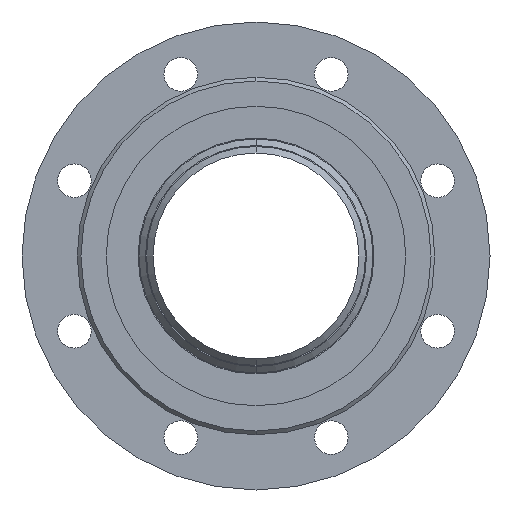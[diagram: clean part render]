
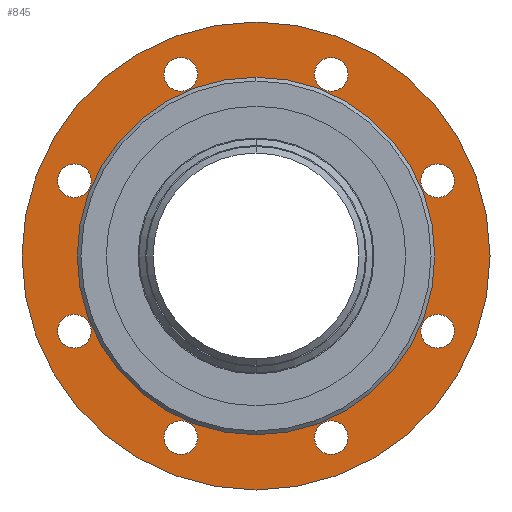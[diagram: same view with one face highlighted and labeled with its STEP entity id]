
A CAD part, left-side view. The second image highlights one B-rep face of the part: STEP entity #845.
In plain terms, the highlighted planar face has unit normal (-1, 0, 0).
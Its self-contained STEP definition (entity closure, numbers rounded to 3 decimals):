
#845=ADVANCED_FACE('',(#1570,#1571,#1572,#1573,#1574,#1575,#1576,#1577,#1578,#1579),#1580,.F.);
#1570=FACE_BOUND('',#2356,.T.);
#1571=FACE_BOUND('',#2357,.T.);
#1572=FACE_BOUND('',#2358,.T.);
#1573=FACE_BOUND('',#2359,.T.);
#1574=FACE_BOUND('',#2360,.T.);
#1575=FACE_BOUND('',#2361,.T.);
#1576=FACE_BOUND('',#2362,.T.);
#1577=FACE_BOUND('',#2363,.T.);
#1578=FACE_BOUND('',#2364,.T.);
#1579=FACE_OUTER_BOUND('',#2365,.T.);
#1580=PLANE('',#2366);
#2356=EDGE_LOOP('',(#3874,#3875));
#2357=EDGE_LOOP('',(#3876,#3877));
#2358=EDGE_LOOP('',(#3878,#3879));
#2359=EDGE_LOOP('',(#3880,#3881));
#2360=EDGE_LOOP('',(#3882,#3883));
#2361=EDGE_LOOP('',(#3884,#3885));
#2362=EDGE_LOOP('',(#3886,#3887));
#2363=EDGE_LOOP('',(#3888,#3889));
#2364=EDGE_LOOP('',(#3890,#3891));
#2365=EDGE_LOOP('',(#3892,#3893));
#2366=AXIS2_PLACEMENT_3D('',#3894,#3895,#3896);
#3874=ORIENTED_EDGE('',*,*,#4578,.T.);
#3875=ORIENTED_EDGE('',*,*,#4759,.T.);
#3876=ORIENTED_EDGE('',*,*,#4443,.T.);
#3877=ORIENTED_EDGE('',*,*,#4760,.T.);
#3878=ORIENTED_EDGE('',*,*,#4340,.T.);
#3879=ORIENTED_EDGE('',*,*,#4304,.T.);
#3880=ORIENTED_EDGE('',*,*,#4410,.T.);
#3881=ORIENTED_EDGE('',*,*,#4761,.T.);
#3882=ORIENTED_EDGE('',*,*,#4656,.T.);
#3883=ORIENTED_EDGE('',*,*,#4457,.T.);
#3884=ORIENTED_EDGE('',*,*,#4337,.T.);
#3885=ORIENTED_EDGE('',*,*,#4363,.T.);
#3886=ORIENTED_EDGE('',*,*,#4385,.T.);
#3887=ORIENTED_EDGE('',*,*,#4488,.T.);
#3888=ORIENTED_EDGE('',*,*,#4762,.T.);
#3889=ORIENTED_EDGE('',*,*,#4588,.T.);
#3890=ORIENTED_EDGE('',*,*,#4272,.T.);
#3891=ORIENTED_EDGE('',*,*,#4749,.T.);
#3892=ORIENTED_EDGE('',*,*,#4673,.F.);
#3893=ORIENTED_EDGE('',*,*,#4494,.F.);
#3894=CARTESIAN_POINT('',(5.0,0.0,0.));
#3895=DIRECTION('',(1.0,0.0,0.));
#3896=DIRECTION('',(0.,0.0,-1.0));
#4272=EDGE_CURVE('',#5014,#5018,#5020,.T.);
#4304=EDGE_CURVE('',#5074,#5072,#5075,.T.);
#4337=EDGE_CURVE('',#5123,#5127,#5129,.T.);
#4340=EDGE_CURVE('',#5072,#5074,#5132,.T.);
#4363=EDGE_CURVE('',#5127,#5123,#5171,.T.);
#4385=EDGE_CURVE('',#5200,#5204,#5206,.T.);
#4410=EDGE_CURVE('',#5241,#5245,#5247,.T.);
#4443=EDGE_CURVE('',#5295,#5299,#5301,.T.);
#4457=EDGE_CURVE('',#5323,#5321,#5324,.T.);
#4488=EDGE_CURVE('',#5204,#5200,#5366,.T.);
#4494=EDGE_CURVE('',#5374,#5369,#5376,.T.);
#4578=EDGE_CURVE('',#5487,#5485,#5488,.T.);
#4588=EDGE_CURVE('',#5504,#5502,#5505,.T.);
#4656=EDGE_CURVE('',#5321,#5323,#5589,.T.);
#4673=EDGE_CURVE('',#5369,#5374,#5609,.T.);
#4749=EDGE_CURVE('',#5018,#5014,#5694,.T.);
#4759=EDGE_CURVE('',#5485,#5487,#5704,.T.);
#4760=EDGE_CURVE('',#5299,#5295,#5705,.T.);
#4761=EDGE_CURVE('',#5245,#5241,#5706,.T.);
#4762=EDGE_CURVE('',#5502,#5504,#5707,.T.);
#5014=VERTEX_POINT('',#6008);
#5018=VERTEX_POINT('',#6013);
#5020=CIRCLE('',#6016,9.0);
#5072=VERTEX_POINT('',#6089);
#5074=VERTEX_POINT('',#6092);
#5075=CIRCLE('',#6093,9.0);
#5123=VERTEX_POINT('',#6153);
#5127=VERTEX_POINT('',#6158);
#5129=CIRCLE('',#6161,9.0);
#5132=CIRCLE('',#6164,9.0);
#5171=CIRCLE('',#6212,9.0);
#5200=VERTEX_POINT('',#6250);
#5204=VERTEX_POINT('',#6255);
#5206=CIRCLE('',#6258,9.0);
#5241=VERTEX_POINT('',#6305);
#5245=VERTEX_POINT('',#6310);
#5247=CIRCLE('',#6313,9.0);
#5295=VERTEX_POINT('',#6372);
#5299=VERTEX_POINT('',#6377);
#5301=CIRCLE('',#6380,9.0);
#5321=VERTEX_POINT('',#6406);
#5323=VERTEX_POINT('',#6409);
#5324=CIRCLE('',#6410,9.0);
#5366=CIRCLE('',#6461,9.0);
#5369=VERTEX_POINT('',#6464);
#5374=VERTEX_POINT('',#6470);
#5376=CIRCLE('',#6473,125.0);
#5485=VERTEX_POINT('',#6605);
#5487=VERTEX_POINT('',#6608);
#5488=CIRCLE('',#6609,62.5);
#5502=VERTEX_POINT('',#6625);
#5504=VERTEX_POINT('',#6628);
#5505=CIRCLE('',#6629,9.0);
#5589=CIRCLE('',#6735,9.0);
#5609=CIRCLE('',#6757,125.0);
#5694=CIRCLE('',#6864,9.0);
#5704=CIRCLE('',#6876,62.5);
#5705=CIRCLE('',#6877,9.0);
#5706=CIRCLE('',#6878,9.0);
#5707=CIRCLE('',#6879,9.0);
#6008=CARTESIAN_POINT('',(5.0,-40.182,-106.007));
#6013=CARTESIAN_POINT('',(5.,-40.182,-88.007));
#6016=AXIS2_PLACEMENT_3D('',#7113,#7114,#7115);
#6089=CARTESIAN_POINT('',(5.0,40.182,-106.007));
#6092=CARTESIAN_POINT('',(5.,40.182,-88.007));
#6093=AXIS2_PLACEMENT_3D('',#7144,#7145,#7146);
#6153=CARTESIAN_POINT('',(5.0,97.007,31.182));
#6158=CARTESIAN_POINT('',(5.0,97.007,49.182));
#6161=AXIS2_PLACEMENT_3D('',#7194,#7195,#7196);
#6164=AXIS2_PLACEMENT_3D('',#7200,#7201,#7202);
#6212=AXIS2_PLACEMENT_3D('',#7236,#7237,#7238);
#6250=CARTESIAN_POINT('',(5.0,40.182,88.007));
#6255=CARTESIAN_POINT('',(5.,40.182,106.007));
#6258=AXIS2_PLACEMENT_3D('',#7265,#7266,#7267);
#6305=CARTESIAN_POINT('',(5.0,-97.007,31.182));
#6310=CARTESIAN_POINT('',(5.0,-97.007,49.182));
#6313=AXIS2_PLACEMENT_3D('',#7294,#7295,#7296);
#6372=CARTESIAN_POINT('',(5.0,97.007,-49.182));
#6377=CARTESIAN_POINT('',(5.0,97.007,-31.182));
#6380=AXIS2_PLACEMENT_3D('',#7346,#7347,#7348);
#6406=CARTESIAN_POINT('',(5.0,-40.182,88.007));
#6409=CARTESIAN_POINT('',(5.,-40.182,106.007));
#6410=AXIS2_PLACEMENT_3D('',#7362,#7363,#7364);
#6461=AXIS2_PLACEMENT_3D('',#7410,#7411,#7412);
#6464=CARTESIAN_POINT('',(5.,0.0,-125.0));
#6470=CARTESIAN_POINT('',(5.,0.,125.0));
#6473=AXIS2_PLACEMENT_3D('',#7421,#7422,#7423);
#6605=CARTESIAN_POINT('',(5.0,0.,-62.5));
#6608=CARTESIAN_POINT('',(5.0,0.,62.5));
#6609=AXIS2_PLACEMENT_3D('',#7538,#7539,#7540);
#6625=CARTESIAN_POINT('',(5.0,-97.007,-49.182));
#6628=CARTESIAN_POINT('',(5.0,-97.007,-31.182));
#6629=AXIS2_PLACEMENT_3D('',#7556,#7557,#7558);
#6735=AXIS2_PLACEMENT_3D('',#7644,#7645,#7646);
#6757=AXIS2_PLACEMENT_3D('',#7667,#7668,#7669);
#6864=AXIS2_PLACEMENT_3D('',#7737,#7738,#7739);
#6876=AXIS2_PLACEMENT_3D('',#7742,#7743,#7744);
#6877=AXIS2_PLACEMENT_3D('',#7745,#7746,#7747);
#6878=AXIS2_PLACEMENT_3D('',#7748,#7749,#7750);
#6879=AXIS2_PLACEMENT_3D('',#7751,#7752,#7753);
#7113=CARTESIAN_POINT('',(5.,-40.182,-97.007));
#7114=DIRECTION('',(1.0,0.0,0.));
#7115=DIRECTION('',(0.,0.0,-1.0));
#7144=CARTESIAN_POINT('',(5.,40.182,-97.007));
#7145=DIRECTION('',(1.0,0.0,0.));
#7146=DIRECTION('',(0.,0.0,-1.0));
#7194=CARTESIAN_POINT('',(5.0,97.007,40.182));
#7195=DIRECTION('',(1.0,0.0,0.));
#7196=DIRECTION('',(0.,0.0,-1.0));
#7200=CARTESIAN_POINT('',(5.,40.182,-97.007));
#7201=DIRECTION('',(1.0,0.0,0.));
#7202=DIRECTION('',(0.,0.0,-1.0));
#7236=CARTESIAN_POINT('',(5.0,97.007,40.182));
#7237=DIRECTION('',(1.0,0.0,0.));
#7238=DIRECTION('',(0.,0.0,-1.0));
#7265=CARTESIAN_POINT('',(5.,40.182,97.007));
#7266=DIRECTION('',(1.0,0.0,0.));
#7267=DIRECTION('',(0.,0.0,-1.0));
#7294=CARTESIAN_POINT('',(5.0,-97.007,40.182));
#7295=DIRECTION('',(1.0,0.0,0.));
#7296=DIRECTION('',(0.,0.0,-1.0));
#7346=CARTESIAN_POINT('',(5.0,97.007,-40.182));
#7347=DIRECTION('',(1.0,0.0,0.));
#7348=DIRECTION('',(0.,0.0,-1.0));
#7362=CARTESIAN_POINT('',(5.,-40.182,97.007));
#7363=DIRECTION('',(1.0,0.0,0.));
#7364=DIRECTION('',(0.,0.0,-1.0));
#7410=CARTESIAN_POINT('',(5.,40.182,97.007));
#7411=DIRECTION('',(1.0,0.0,0.));
#7412=DIRECTION('',(0.,0.0,-1.0));
#7421=CARTESIAN_POINT('',(5.0,0.0,0.));
#7422=DIRECTION('',(1.0,0.0,0.));
#7423=DIRECTION('',(0.,0.0,-1.0));
#7538=CARTESIAN_POINT('',(5.0,0.0,0.));
#7539=DIRECTION('',(1.0,0.0,0.));
#7540=DIRECTION('',(0.,0.0,-1.0));
#7556=CARTESIAN_POINT('',(5.0,-97.007,-40.182));
#7557=DIRECTION('',(1.0,0.0,0.));
#7558=DIRECTION('',(0.,0.0,-1.0));
#7644=CARTESIAN_POINT('',(5.,-40.182,97.007));
#7645=DIRECTION('',(1.0,0.0,0.));
#7646=DIRECTION('',(0.,0.0,-1.0));
#7667=CARTESIAN_POINT('',(5.0,0.0,0.));
#7668=DIRECTION('',(1.0,0.0,0.));
#7669=DIRECTION('',(0.,0.0,-1.0));
#7737=CARTESIAN_POINT('',(5.,-40.182,-97.007));
#7738=DIRECTION('',(1.0,0.0,0.));
#7739=DIRECTION('',(0.,0.0,-1.0));
#7742=CARTESIAN_POINT('',(5.0,0.0,0.));
#7743=DIRECTION('',(1.0,0.0,0.));
#7744=DIRECTION('',(0.,0.0,-1.0));
#7745=CARTESIAN_POINT('',(5.0,97.007,-40.182));
#7746=DIRECTION('',(1.0,0.0,0.));
#7747=DIRECTION('',(0.,0.0,-1.0));
#7748=CARTESIAN_POINT('',(5.0,-97.007,40.182));
#7749=DIRECTION('',(1.0,0.0,0.));
#7750=DIRECTION('',(0.,0.0,-1.0));
#7751=CARTESIAN_POINT('',(5.0,-97.007,-40.182));
#7752=DIRECTION('',(1.0,0.0,0.));
#7753=DIRECTION('',(0.,0.0,-1.0));
